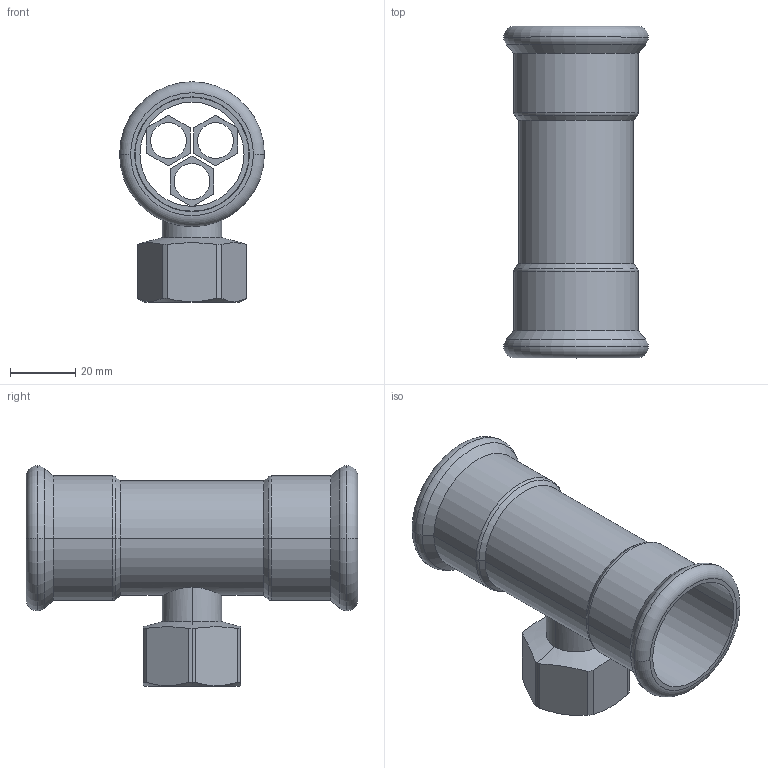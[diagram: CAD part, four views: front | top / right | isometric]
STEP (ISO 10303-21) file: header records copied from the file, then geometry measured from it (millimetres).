
FILE_DESCRIPTION(('OneSpaceDesigner STEP Export'),'2;1');
FILE_NAME('R2718 35xRp3-4x35.stp','2010-06-10T10:05:48',(''),(''),'OneSpace Designer STEP processor for AP214 (Solid Model)','OneSpace Modeling 15.00A 14-Mar-2007 (C) CoCreate Software GmbH','');
FILE_SCHEMA(('AUTOMOTIVE_DESIGN { 1 0 10303 214 1 1 1 1 }'));
Length unit declared in the file: millimetre
Products named in the file (2): R2718_35xRp3-4x35
Assembly tree (1 placements, depth 2):
  R2718_35xRp3-4x35
    R2718_35xRp3-4x35
Bounding box: 44.55 x 102 x 67.78 mm (x, y, z)
Volume: 30262.4 mm3; surface area: 32152.4 mm2
Topology: 1 solids, 1 shells, 190 faces, 479 edges, 306 vertices
Faces by surface type: plane 94, cylinder 64, cone 20, torus 12
Entity records: 6737 total; most frequent: CARTESIAN_POINT 2558, ORIENTED_EDGE 958, DIRECTION 717, EDGE_CURVE 479, VERTEX_POINT 306, VECTOR 287, LINE 287, EDGE_LOOP 225
